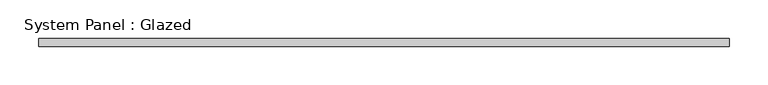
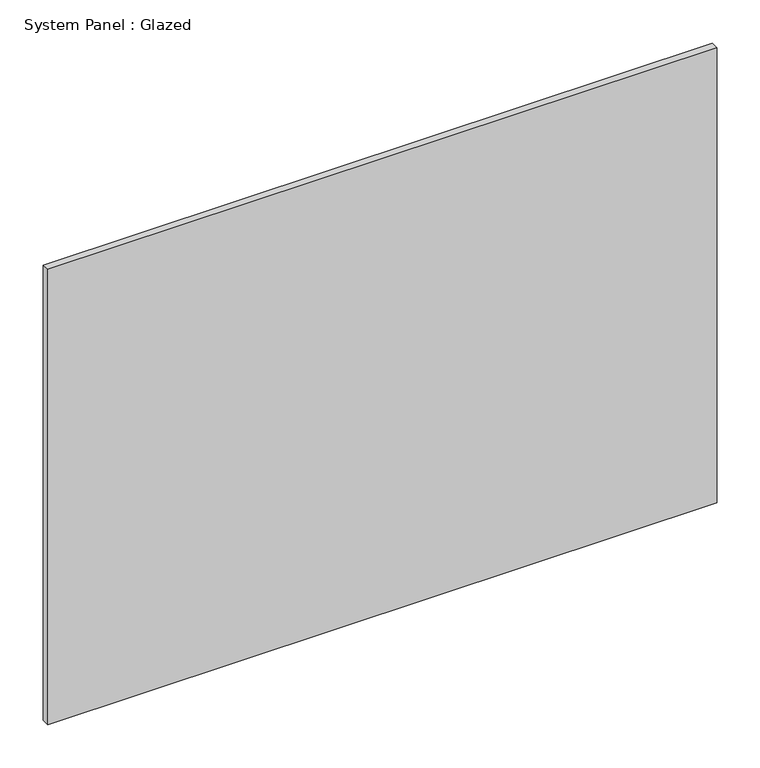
"""IFC4 building model written with IfcOpenShell, lengths in millimetres: plate geometry, System Panel : Glazed."""

from ifc_helpers import new_model, si_unit, origin, origin_with_axes, place, context, project, spatial, polyline, outline, extrude, source, transform, mapped, element, save


def system_panel_glazed_2de7dfe5(model_context):
    return source(origin(), model_context, "Body", "SweptSolid", [
        extrude(outline(polyline([(444.9999999, -5.0), (-444.9999999, -5.0), (-444.9999999, 5.0), (444.9999999, 5.0), (444.9999999, -5.0)])), origin_with_axes(), (0.0, 0.0, 1.0), 640.0),
    ])


if __name__ == "__main__":
    model = new_model("IFC4")
    model_context = context("Model", 3, world=origin())
    ifc_project = project(units=[si_unit("LENGTHUNIT", "METRE", prefix="MILLI")], contexts=[model_context])
    site = spatial("IfcSite", under=ifc_project)
    building = spatial("IfcBuilding", under=site)
    placement = place(None, origin())
    system_panel_glazed_shape = system_panel_glazed_2de7dfe5(model_context)
    element("IfcPlate", 1, ObjectType="System Panel : Glazed", at=placement, inside=building, context=model_context, shape_type="MappedRepresentation", body=[
        mapped(system_panel_glazed_shape, transform((0.0, 0.0, 0.0), x_axis=(1.0, 0.0, 0.0), y_axis=(0.0, 1.0, 0.0), z_axis=(0.0, 0.0, 1.0))),
    ])
    save(model, "model.ifc")
